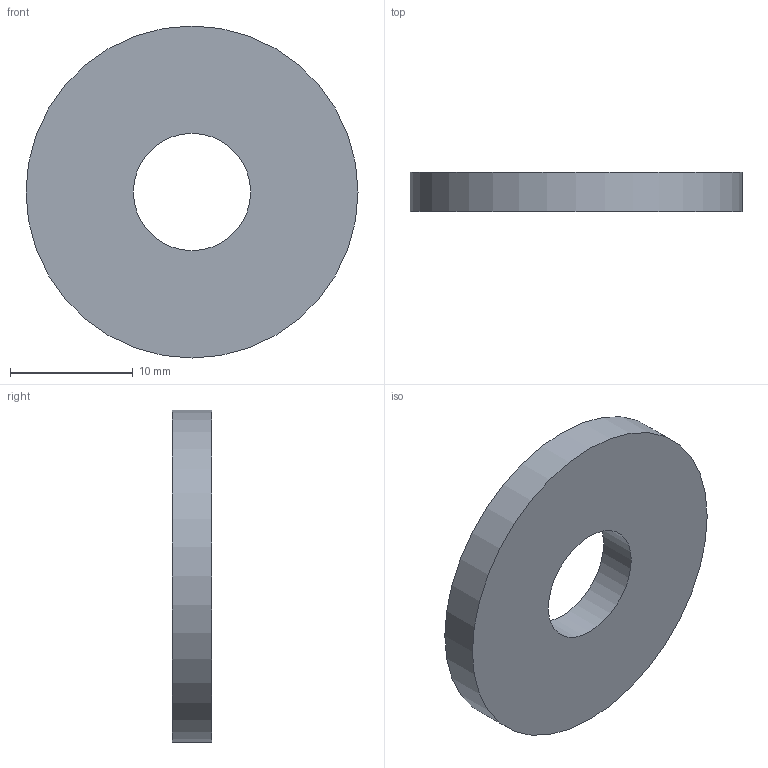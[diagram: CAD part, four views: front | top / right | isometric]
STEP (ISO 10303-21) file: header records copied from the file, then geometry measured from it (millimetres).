
FILE_DESCRIPTION(/* description */ (''),/* implementation_level */ '2;1');
FILE_NAME(/* name */ 'Knee Shaft Hub v1.step',/* time_stamp */ '2025-10-21T12:10:04-07:00',/* author */ (''),/* organization */ (''),/* preprocessor_version */ 'ST-DEVELOPER v20.1',/* originating_system */ 'Autodesk Translation Framework v14.17.0.0',/* authorisation */ '');
FILE_SCHEMA (('AUTOMOTIVE_DESIGN { 1 0 10303 214 3 1 1 }'));
Length unit declared in the file: millimetre
Products named in the file (1): Knee Shaft Hub
Bounding box: 27 x 3.17 x 27 mm (x, y, z)
Volume: 1591.6 mm3; surface area: 1366.9 mm2
Topology: 1 solids, 1 shells, 4 faces, 6 edges, 4 vertices
Faces by surface type: cylinder 2, plane 2
Full cylindrical faces by diameter (mm): 9.525 x1, 27 x1
Entity records: 131 total; most frequent: DIRECTION 20, CARTESIAN_POINT 15, ORIENTED_EDGE 12, AXIS2_PLACEMENT_3D 9, EDGE_LOOP 6, EDGE_CURVE 6, FACE_OUTER_BOUND 4, CIRCLE 4
